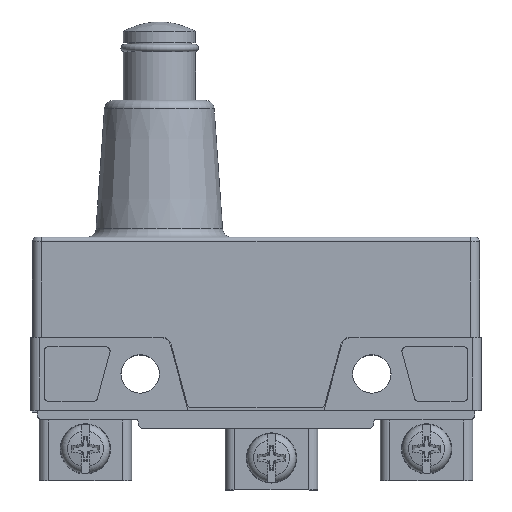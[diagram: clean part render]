
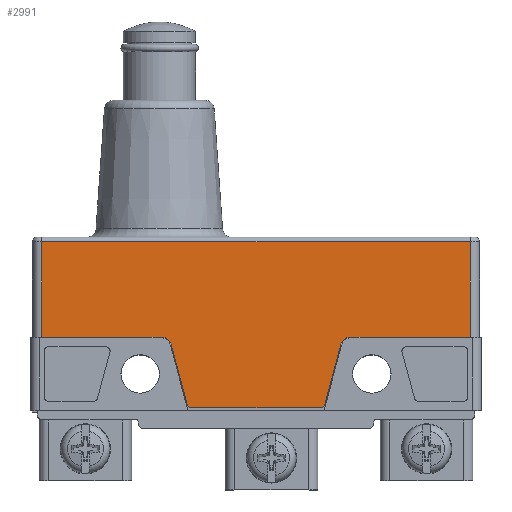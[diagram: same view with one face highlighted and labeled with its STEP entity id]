
A CAD part, top view. The second image highlights one B-rep face of the part: STEP entity #2991.
In plain terms, the highlighted planar face has unit normal (0, 0, 1).
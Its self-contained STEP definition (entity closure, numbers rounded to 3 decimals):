
#2653=CARTESIAN_POINT('',(36.2,2.2,8.5));
#2654=VERTEX_POINT('',#2653);
#2662=CARTESIAN_POINT('',(22.967,2.2,8.5));
#2663=VERTEX_POINT('',#2662);
#2664=CARTESIAN_POINT('',(36.2,2.2,8.5));
#2665=DIRECTION('',(-1.0,0.0,0.0));
#2666=VECTOR('',#2665,13.233);
#2667=LINE('',#2664,#2666);
#2668=EDGE_CURVE('',#2654,#2663,#2667,.T.);
#2677=CARTESIAN_POINT('',(2.433,2.2,8.5));
#2678=VERTEX_POINT('',#2677);
#2685=CARTESIAN_POINT('',(-10.8,2.2,8.5));
#2686=VERTEX_POINT('',#2685);
#2687=CARTESIAN_POINT('',(-10.8,2.2,8.5));
#2688=DIRECTION('',(1.0,0.0,0.0));
#2689=VECTOR('',#2688,13.233);
#2690=LINE('',#2687,#2689);
#2691=EDGE_CURVE('',#2686,#2678,#2690,.T.);
#2782=CARTESIAN_POINT('',(-10.8,12.7,8.5));
#2783=VERTEX_POINT('',#2782);
#2784=CARTESIAN_POINT('',(-10.8,2.2,8.5));
#2785=DIRECTION('',(0.0,1.0,0.0));
#2786=VECTOR('',#2785,10.5);
#2787=LINE('',#2784,#2786);
#2788=EDGE_CURVE('',#2686,#2783,#2787,.T.);
#2909=CARTESIAN_POINT('',(12.7,5.888,8.5));
#2910=DIRECTION('',(0.0,0.0,1.0));
#2911=DIRECTION('',(1.0,0.0,0.0));
#2912=AXIS2_PLACEMENT_3D('',#2909,#2910,#2911);
#2913=PLANE('',#2912);
#2914=ORIENTED_EDGE('',*,*,#2691,.T.);
#2915=CARTESIAN_POINT('',(3.399,1.459,8.5));
#2916=VERTEX_POINT('',#2915);
#2917=CARTESIAN_POINT('',(2.433,1.2,8.5));
#2918=DIRECTION('',(0.0,0.0,1.0));
#2919=DIRECTION('',(0.966,0.259,0.0));
#2920=AXIS2_PLACEMENT_3D('',#2917,#2918,#2919);
#2921=CIRCLE('',#2920,1.0);
#2922=EDGE_CURVE('',#2916,#2678,#2921,.T.);
#2923=ORIENTED_EDGE('',*,*,#2922,.F.);
#2924=CARTESIAN_POINT('',(5.164,-5.129,8.5));
#2925=VERTEX_POINT('',#2924);
#2926=CARTESIAN_POINT('',(5.164,-5.129,8.5));
#2927=DIRECTION('',(-0.259,0.966,0.0));
#2928=VECTOR('',#2927,6.821);
#2929=LINE('',#2926,#2928);
#2930=EDGE_CURVE('',#2925,#2916,#2929,.T.);
#2931=ORIENTED_EDGE('',*,*,#2930,.F.);
#2932=CARTESIAN_POINT('',(5.647,-5.5,8.5));
#2933=VERTEX_POINT('',#2932);
#2934=CARTESIAN_POINT('',(5.647,-5.,8.5));
#2935=DIRECTION('',(0.0,0.0,-1.));
#2936=DIRECTION('',(0.966,0.259,0.0));
#2937=AXIS2_PLACEMENT_3D('',#2934,#2935,#2936);
#2938=CIRCLE('',#2937,0.5);
#2939=EDGE_CURVE('',#2933,#2925,#2938,.T.);
#2940=ORIENTED_EDGE('',*,*,#2939,.F.);
#2941=CARTESIAN_POINT('',(19.753,-5.5,8.5));
#2942=VERTEX_POINT('',#2941);
#2943=CARTESIAN_POINT('',(19.753,-5.5,8.5));
#2944=DIRECTION('',(-1.0,0.0,0.0));
#2945=VECTOR('',#2944,14.106);
#2946=LINE('',#2943,#2945);
#2947=EDGE_CURVE('',#2942,#2933,#2946,.T.);
#2948=ORIENTED_EDGE('',*,*,#2947,.F.);
#2949=CARTESIAN_POINT('',(20.236,-5.129,8.5));
#2950=VERTEX_POINT('',#2949);
#2951=CARTESIAN_POINT('',(19.753,-5.,8.5));
#2952=DIRECTION('',(0.0,0.0,-1.0));
#2953=DIRECTION('',(0.0,1.0,0.0));
#2954=AXIS2_PLACEMENT_3D('',#2951,#2952,#2953);
#2955=CIRCLE('',#2954,0.5);
#2956=EDGE_CURVE('',#2950,#2942,#2955,.T.);
#2957=ORIENTED_EDGE('',*,*,#2956,.F.);
#2958=CARTESIAN_POINT('',(22.001,1.459,8.5));
#2959=VERTEX_POINT('',#2958);
#2960=CARTESIAN_POINT('',(22.001,1.459,8.5));
#2961=DIRECTION('',(-0.259,-0.966,0.0));
#2962=VECTOR('',#2961,6.821);
#2963=LINE('',#2960,#2962);
#2964=EDGE_CURVE('',#2959,#2950,#2963,.T.);
#2965=ORIENTED_EDGE('',*,*,#2964,.F.);
#2966=CARTESIAN_POINT('',(22.967,1.2,8.5));
#2967=DIRECTION('',(0.0,0.0,1.0));
#2968=DIRECTION('',(0.0,1.0,0.0));
#2969=AXIS2_PLACEMENT_3D('',#2966,#2967,#2968);
#2970=CIRCLE('',#2969,1.);
#2971=EDGE_CURVE('',#2663,#2959,#2970,.T.);
#2972=ORIENTED_EDGE('',*,*,#2971,.F.);
#2973=ORIENTED_EDGE('',*,*,#2668,.F.);
#2974=CARTESIAN_POINT('',(36.2,12.7,8.5));
#2975=VERTEX_POINT('',#2974);
#2976=CARTESIAN_POINT('',(36.2,12.7,8.5));
#2977=DIRECTION('',(0.0,-1.0,0.0));
#2978=VECTOR('',#2977,10.5);
#2979=LINE('',#2976,#2978);
#2980=EDGE_CURVE('',#2975,#2654,#2979,.T.);
#2981=ORIENTED_EDGE('',*,*,#2980,.F.);
#2982=CARTESIAN_POINT('',(-10.8,12.7,8.5));
#2983=DIRECTION('',(1.0,0.0,0.0));
#2984=VECTOR('',#2983,47.);
#2985=LINE('',#2982,#2984);
#2986=EDGE_CURVE('',#2783,#2975,#2985,.T.);
#2987=ORIENTED_EDGE('',*,*,#2986,.F.);
#2988=ORIENTED_EDGE('',*,*,#2788,.F.);
#2989=EDGE_LOOP('',(#2914,#2923,#2931,#2940,#2948,#2957,#2965,#2972,#2973,#2981,#2987,#2988));
#2990=FACE_OUTER_BOUND('',#2989,.T.);
#2991=ADVANCED_FACE('',(#2990),#2913,.T.);
